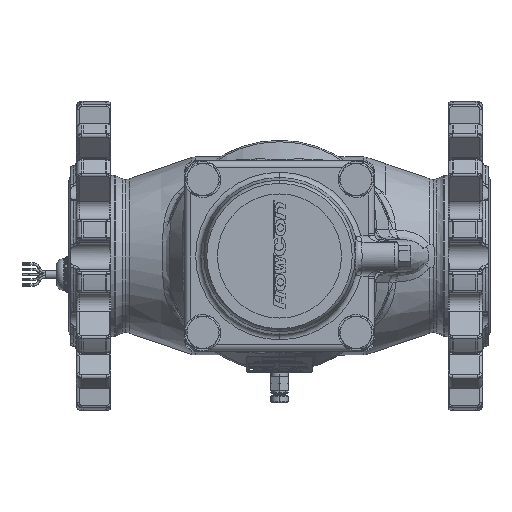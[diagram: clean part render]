
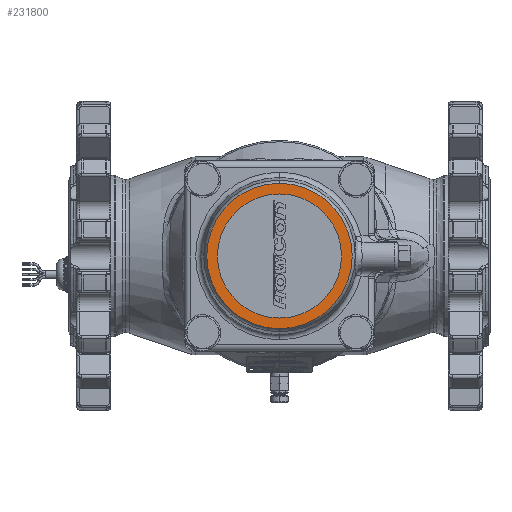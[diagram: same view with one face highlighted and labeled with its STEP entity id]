
A CAD part, front view. The second image highlights one B-rep face of the part: STEP entity #231800.
In plain terms, the highlighted planar face has unit normal (0, -1, 0).
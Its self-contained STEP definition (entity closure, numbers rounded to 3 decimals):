
#1662 = DIRECTION ( 'NONE',  ( 0., 0., -1. ) ) ;
#1939 = ORIENTED_EDGE ( 'NONE', *, *, #150577, .T. ) ;
#5270 = DIRECTION ( 'NONE',  ( 0., 0., 1. ) ) ;
#5793 = DIRECTION ( 'NONE',  ( 0., 0., -1. ) ) ;
#21964 = DIRECTION ( 'NONE',  ( 0., 0., -1. ) ) ;
#23918 = VERTEX_POINT ( 'NONE', #115057 ) ;
#25168 = ORIENTED_EDGE ( 'NONE', *, *, #126716, .T. ) ;
#39331 = AXIS2_PLACEMENT_3D ( 'NONE', #85006, #106194, #67402 ) ;
#48218 = EDGE_CURVE ( 'NONE', #23918, #137786, #63197, .T. ) ;
#51965 = AXIS2_PLACEMENT_3D ( 'NONE', #199528, #57111, #5270 ) ;
#57111 = DIRECTION ( 'NONE',  ( 0., -1., 0. ) ) ;
#63197 = CIRCLE ( 'NONE', #51965, 47. ) ;
#67402 = DIRECTION ( 'NONE',  ( 0., 0., 1. ) ) ;
#81950 = CIRCLE ( 'NONE', #213519, 55.067 ) ;
#82736 = CARTESIAN_POINT ( 'NONE',  ( 0., -135.3, 55.067 ) ) ;
#82823 = ORIENTED_EDGE ( 'NONE', *, *, #96763, .F. ) ;
#85006 = CARTESIAN_POINT ( 'NONE',  ( 0., -135.3, 0. ) ) ;
#91692 = EDGE_LOOP ( 'NONE', ( #217016, #82823 ) ) ;
#96763 = EDGE_CURVE ( 'NONE', #137786, #23918, #178470, .T. ) ;
#98682 = FACE_BOUND ( 'NONE', #91692, .T. ) ;
#106194 = DIRECTION ( 'NONE',  ( 0., -1., 0. ) ) ;
#107098 = CIRCLE ( 'NONE', #140999, 55.067 ) ;
#111438 = CARTESIAN_POINT ( 'NONE',  ( 0., -135.3, -47. ) ) ;
#111951 = EDGE_LOOP ( 'NONE', ( #25168, #1939 ) ) ;
#115057 = CARTESIAN_POINT ( 'NONE',  ( 0., -135.3, 47. ) ) ;
#115167 = CARTESIAN_POINT ( 'NONE',  ( 0., -135.3, 66.831 ) ) ;
#126716 = EDGE_CURVE ( 'NONE', #197520, #216427, #107098, .T. ) ;
#137786 = VERTEX_POINT ( 'NONE', #111438 ) ;
#140999 = AXIS2_PLACEMENT_3D ( 'NONE', #204379, #187857, #21964 ) ;
#150577 = EDGE_CURVE ( 'NONE', #216427, #197520, #81950, .T. ) ;
#162396 = CARTESIAN_POINT ( 'NONE',  ( 0., -135.3, -55.067 ) ) ;
#166682 = AXIS2_PLACEMENT_3D ( 'NONE', #115167, #187012, #5793 ) ;
#167047 = PLANE ( 'NONE',  #166682 ) ;
#178470 = CIRCLE ( 'NONE', #39331, 47. ) ;
#187012 = DIRECTION ( 'NONE',  ( 0., 1., 0. ) ) ;
#187857 = DIRECTION ( 'NONE',  ( 0., -1., 0. ) ) ;
#197520 = VERTEX_POINT ( 'NONE', #82736 ) ;
#199528 = CARTESIAN_POINT ( 'NONE',  ( 0., -135.3, 0. ) ) ;
#200582 = CARTESIAN_POINT ( 'NONE',  ( 0., -135.3, 0. ) ) ;
#204379 = CARTESIAN_POINT ( 'NONE',  ( 0., -135.3, 0. ) ) ;
#204687 = FACE_OUTER_BOUND ( 'NONE', #111951, .T. ) ;
#213519 = AXIS2_PLACEMENT_3D ( 'NONE', #200582, #221666, #1662 ) ;
#216427 = VERTEX_POINT ( 'NONE', #162396 ) ;
#217016 = ORIENTED_EDGE ( 'NONE', *, *, #48218, .F. ) ;
#221666 = DIRECTION ( 'NONE',  ( 0., -1., 0. ) ) ;
#231800 = ADVANCED_FACE ( 'NONE', ( #204687, #98682 ), #167047, .F. ) ;
